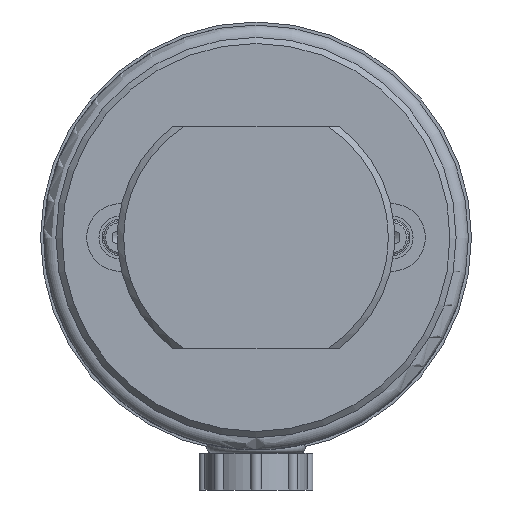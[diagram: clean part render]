
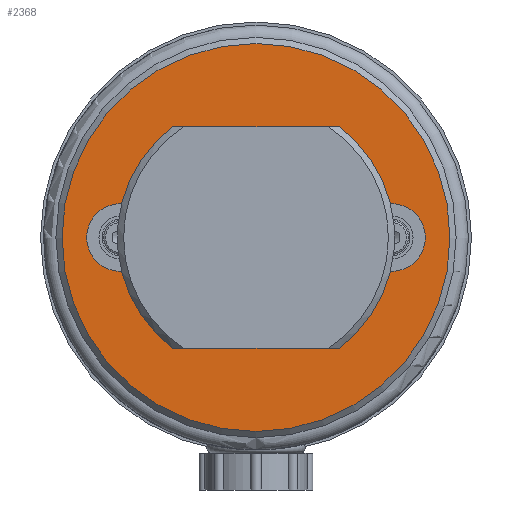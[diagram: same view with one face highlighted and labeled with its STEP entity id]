
A CAD part, left-side view. The second image highlights one B-rep face of the part: STEP entity #2368.
In plain terms, the highlighted planar face has unit normal (-1, 0, 0).
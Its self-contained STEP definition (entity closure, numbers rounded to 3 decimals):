
#362=FACE_BOUND('',#589,.T.);
#363=FACE_BOUND('',#590,.T.);
#364=FACE_BOUND('',#591,.T.);
#387=PLANE('',#2560);
#449=FACE_OUTER_BOUND('',#588,.T.);
#588=EDGE_LOOP('',(#1585));
#589=EDGE_LOOP('',(#1586,#1587));
#590=EDGE_LOOP('',(#1588,#1589));
#591=EDGE_LOOP('',(#1590));
#752=CIRCLE('',#2557,15.5);
#755=CIRCLE('',#2561,31.5);
#756=CIRCLE('',#2562,5.5);
#757=CIRCLE('',#2563,5.5);
#758=CIRCLE('',#2564,5.5);
#759=CIRCLE('',#2565,5.5);
#948=VERTEX_POINT('',#3746);
#951=VERTEX_POINT('',#3754);
#952=VERTEX_POINT('',#3756);
#953=VERTEX_POINT('',#3757);
#954=VERTEX_POINT('',#3760);
#955=VERTEX_POINT('',#3761);
#1200=EDGE_CURVE('',#948,#948,#752,.T.);
#1204=EDGE_CURVE('',#951,#951,#755,.T.);
#1205=EDGE_CURVE('',#952,#953,#756,.T.);
#1206=EDGE_CURVE('',#953,#952,#757,.T.);
#1207=EDGE_CURVE('',#954,#955,#758,.T.);
#1208=EDGE_CURVE('',#955,#954,#759,.T.);
#1585=ORIENTED_EDGE('',*,*,#1204,.F.);
#1586=ORIENTED_EDGE('',*,*,#1205,.T.);
#1587=ORIENTED_EDGE('',*,*,#1206,.T.);
#1588=ORIENTED_EDGE('',*,*,#1207,.T.);
#1589=ORIENTED_EDGE('',*,*,#1208,.T.);
#1590=ORIENTED_EDGE('',*,*,#1200,.F.);
#2368=ADVANCED_FACE('',(#449,#362,#363,#364),#387,.T.);
#2557=AXIS2_PLACEMENT_3D('',#3747,#2933,#2934);
#2560=AXIS2_PLACEMENT_3D('',#3753,#2940,#2941);
#2561=AXIS2_PLACEMENT_3D('',#3755,#2942,#2943);
#2562=AXIS2_PLACEMENT_3D('',#3758,#2944,#2945);
#2563=AXIS2_PLACEMENT_3D('',#3759,#2946,#2947);
#2564=AXIS2_PLACEMENT_3D('',#3762,#2948,#2949);
#2565=AXIS2_PLACEMENT_3D('',#3763,#2950,#2951);
#2933=DIRECTION('center_axis',(-1.,0.,0.));
#2934=DIRECTION('ref_axis',(0.,-1.,0.));
#2940=DIRECTION('center_axis',(-1.,0.,0.));
#2941=DIRECTION('ref_axis',(0.,0.,1.));
#2942=DIRECTION('center_axis',(1.,0.,0.));
#2943=DIRECTION('ref_axis',(0.,-1.,0.));
#2944=DIRECTION('center_axis',(1.,0.,0.));
#2945=DIRECTION('ref_axis',(0.,0.,-1.));
#2946=DIRECTION('center_axis',(1.,0.,0.));
#2947=DIRECTION('ref_axis',(0.,0.,-1.));
#2948=DIRECTION('center_axis',(1.,0.,0.));
#2949=DIRECTION('ref_axis',(0.,0.,1.));
#2950=DIRECTION('center_axis',(1.,0.,0.));
#2951=DIRECTION('ref_axis',(0.,0.,1.));
#3746=CARTESIAN_POINT('',(-7.122,15.5,0.));
#3747=CARTESIAN_POINT('Origin',(-7.122,0.,0.));
#3753=CARTESIAN_POINT('Origin',(-7.122,23.75,0.));
#3754=CARTESIAN_POINT('',(-7.122,31.5,0.));
#3755=CARTESIAN_POINT('Origin',(-7.122,0.,0.));
#3756=CARTESIAN_POINT('',(-7.122,-22.,-5.5));
#3757=CARTESIAN_POINT('',(-7.122,-22.,5.5));
#3758=CARTESIAN_POINT('Origin',(-7.122,-22.,0.));
#3759=CARTESIAN_POINT('Origin',(-7.122,-22.,0.));
#3760=CARTESIAN_POINT('',(-7.122,22.,5.5));
#3761=CARTESIAN_POINT('',(-7.122,22.,-5.5));
#3762=CARTESIAN_POINT('Origin',(-7.122,22.,0.));
#3763=CARTESIAN_POINT('Origin',(-7.122,22.,0.));
